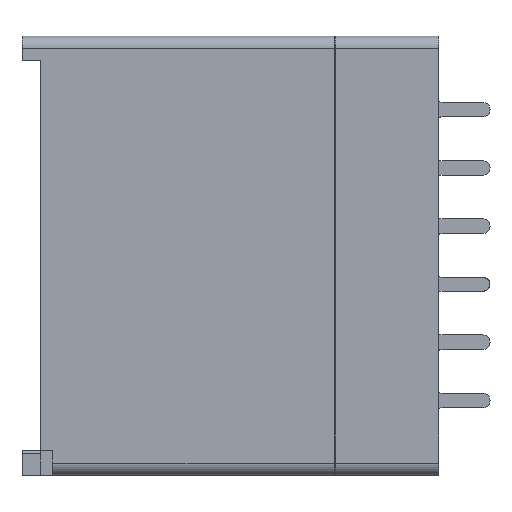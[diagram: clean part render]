
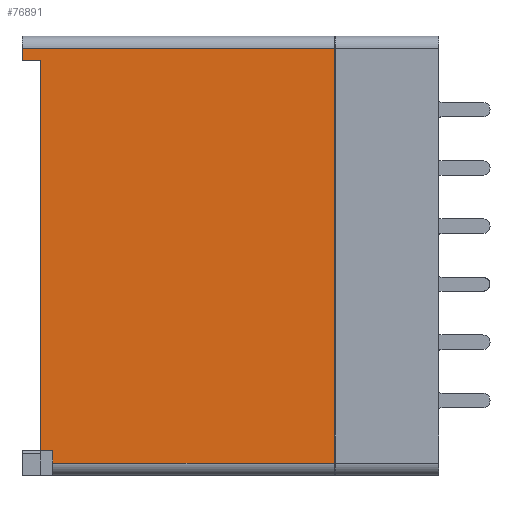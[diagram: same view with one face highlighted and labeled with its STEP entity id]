
A CAD part, front view. The second image highlights one B-rep face of the part: STEP entity #76891.
In plain terms, the highlighted planar face has unit normal (0, -1, 0).
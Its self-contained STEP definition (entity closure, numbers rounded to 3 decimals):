
#7383=DIRECTION('',(0.,0.,-1.));
#7384=VECTOR('',#7383,1.);
#7385=CARTESIAN_POINT('',(2.5,0.,-33.85));
#7386=LINE('',#7385,#7384);
#7400=DIRECTION('',(1.,0.,0.));
#7401=VECTOR('',#7400,1.);
#7402=CARTESIAN_POINT('',(1.5,0.,-33.85));
#7403=LINE('',#7402,#7401);
#15644=DIRECTION('',(0.,0.,-1.));
#15645=VECTOR('',#15644,31.85);
#15646=CARTESIAN_POINT('',(1.5,0.,-2.));
#15647=LINE('',#15646,#15645);
#15772=DIRECTION('',(-1.,0.,0.));
#15773=VECTOR('',#15772,1.5);
#15774=CARTESIAN_POINT('',(1.5,0.,-2.));
#15775=LINE('',#15774,#15773);
#15776=DIRECTION('',(0.,0.,1.));
#15777=VECTOR('',#15776,1.);
#15778=CARTESIAN_POINT('',(0.,0.,-2.));
#15779=LINE('',#15778,#15777);
#15780=DIRECTION('',(1.,0.,0.));
#15781=VECTOR('',#15780,25.5);
#15782=CARTESIAN_POINT('',(0.,0.,-1.));
#15783=LINE('',#15782,#15781);
#15784=DIRECTION('',(0.,0.,-1.));
#15785=VECTOR('',#15784,33.85);
#15786=CARTESIAN_POINT('',(25.5,0.,-1.));
#15787=LINE('',#15786,#15785);
#21650=DIRECTION('',(1.,0.,0.));
#21651=VECTOR('',#21650,23.);
#21652=CARTESIAN_POINT('',(2.5,0.,-34.85));
#21653=LINE('',#21652,#21651);
#41129=CARTESIAN_POINT('',(25.5,0.,-1.));
#41131=VERTEX_POINT('',#41129);
#41215=CARTESIAN_POINT('',(0.,0.,-2.));
#41217=VERTEX_POINT('',#41215);
#41229=CARTESIAN_POINT('',(0.,0.,-1.));
#41230=VERTEX_POINT('',#41229);
#45176=CARTESIAN_POINT('',(25.5,0.,-34.85));
#45177=VERTEX_POINT('',#45176);
#45190=CARTESIAN_POINT('',(2.5,0.,-34.85));
#45191=VERTEX_POINT('',#45190);
#47808=CARTESIAN_POINT('',(1.5,0.,-33.85));
#47809=VERTEX_POINT('',#47808);
#48502=CARTESIAN_POINT('',(1.5,0.,-2.));
#48504=VERTEX_POINT('',#48502);
#49500=CARTESIAN_POINT('',(2.5,0.,-33.85));
#49502=VERTEX_POINT('',#49500);
#76873=CARTESIAN_POINT('',(12.75,0.,-5.881));
#76874=DIRECTION('',(0.,1.,0.));
#76875=DIRECTION('',(0.,0.,1.));
#76876=AXIS2_PLACEMENT_3D('',#76873,#76874,#76875);
#76877=PLANE('',#76876);
#76878=ORIENTED_EDGE('',*,*,#61353,.F.);
#76879=ORIENTED_EDGE('',*,*,#61374,.F.);
#76880=ORIENTED_EDGE('',*,*,#76809,.F.);
#76881=ORIENTED_EDGE('',*,*,#61767,.T.);
#76883=ORIENTED_EDGE('',*,*,#76882,.T.);
#76885=ORIENTED_EDGE('',*,*,#76884,.T.);
#76886=ORIENTED_EDGE('',*,*,#63155,.T.);
#76888=ORIENTED_EDGE('',*,*,#76887,.F.);
#76889=EDGE_LOOP('',(#76878,#76879,#76880,#76881,#76883,#76885,#76886,#76888));
#76890=FACE_OUTER_BOUND('',#76889,.F.);
#76891=ADVANCED_FACE('',(#76890),#76877,.F.);
#61353=EDGE_CURVE('',#49502,#45191,#7386,.T.);
#61374=EDGE_CURVE('',#47809,#49502,#7403,.T.);
#61767=EDGE_CURVE('',#48504,#41217,#15775,.T.);
#63155=EDGE_CURVE('',#41131,#45177,#15787,.T.);
#76809=EDGE_CURVE('',#48504,#47809,#15647,.T.);
#76882=EDGE_CURVE('',#41217,#41230,#15779,.T.);
#76884=EDGE_CURVE('',#41230,#41131,#15783,.T.);
#76887=EDGE_CURVE('',#45191,#45177,#21653,.T.);
